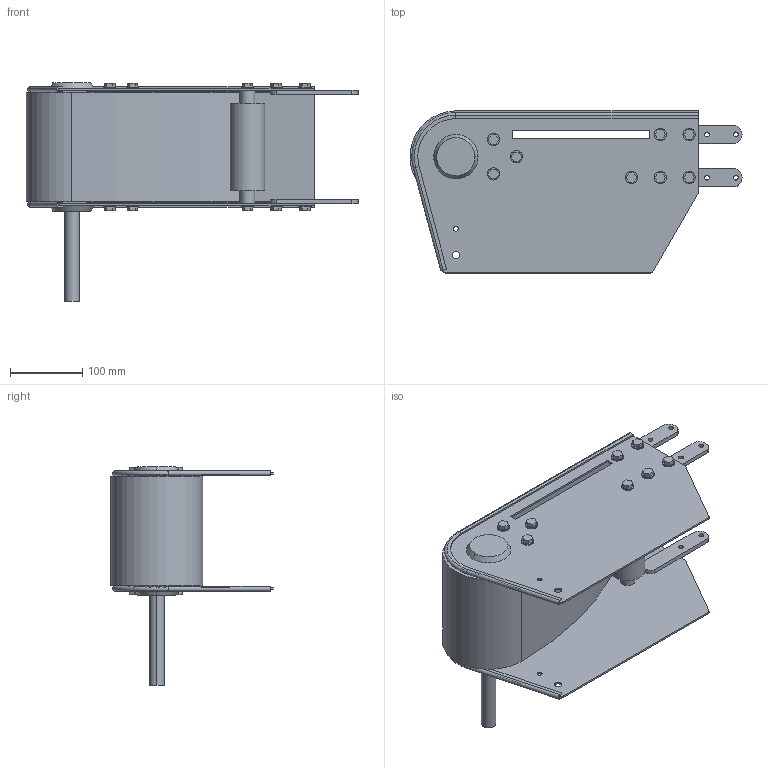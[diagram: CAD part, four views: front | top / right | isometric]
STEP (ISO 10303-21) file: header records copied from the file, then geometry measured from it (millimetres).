
FILE_DESCRIPTION (( 'STEP AP214' ), '1' );
FILE_NAME ('03.102D1R20.160 FS-160-MTS2-100.INOX Directe drive section right.STEP', '2025-02-04T12:37:24', ( '' ), ( '' ), 'SwSTEP 2.0', 'SolidWorks 2024', '' );
FILE_SCHEMA (( 'AUTOMOTIVE_DESIGN' ));
Length unit declared in the file: millimetre
Products named in the file (1): 03.102D1R20.160 FS-160-MTS2-100.INOX Directe drive section right
Bounding box: 461 x 225 x 303 mm (x, y, z)
Volume: 2245783.1 mm3; surface area: 726014.5 mm2
Topology: 4 solids, 4 shells, 325 faces, 794 edges, 516 vertices
Faces by surface type: plane 223, cylinder 96, cone 4, torus 2
Entity records: 9602 total; most frequent: DIRECTION 1650, CARTESIAN_POINT 1636, ORIENTED_EDGE 1588, EDGE_CURVE 794, LINE 590, VECTOR 590, AXIS2_PLACEMENT_3D 530, VERTEX_POINT 516
